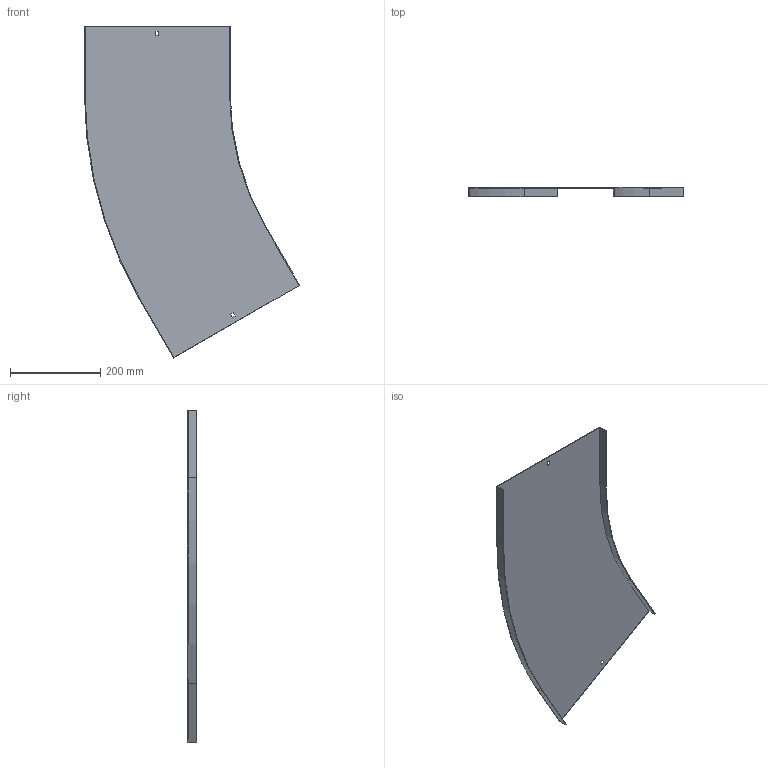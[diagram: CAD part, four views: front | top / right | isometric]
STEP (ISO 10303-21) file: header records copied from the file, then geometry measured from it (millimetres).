
FILE_DESCRIPTION (( 'STEP AP214' ), '1' );
FILE_NAME ('12N6P300.step', '2025-02-21T13:34:23', ( '' ), ( '' ), 'SwSTEP 2.0', 'SolidWorks 2023', '' );
FILE_SCHEMA (( 'AUTOMOTIVE_DESIGN' ));
Length unit declared in the file: millimetre
Products named in the file (1): 12N6P300
Bounding box: 476.84 x 20 x 735.65 mm (x, y, z)
Volume: 373882 mm3; surface area: 501760.4 mm2
Topology: 1 solids, 1 shells, 26 faces, 72 edges, 48 vertices
Faces by surface type: plane 22, cylinder 4
Entity records: 855 total; most frequent: CARTESIAN_POINT 147, ORIENTED_EDGE 144, DIRECTION 134, EDGE_CURVE 72, LINE 64, VECTOR 64, VERTEX_POINT 48, AXIS2_PLACEMENT_3D 35
